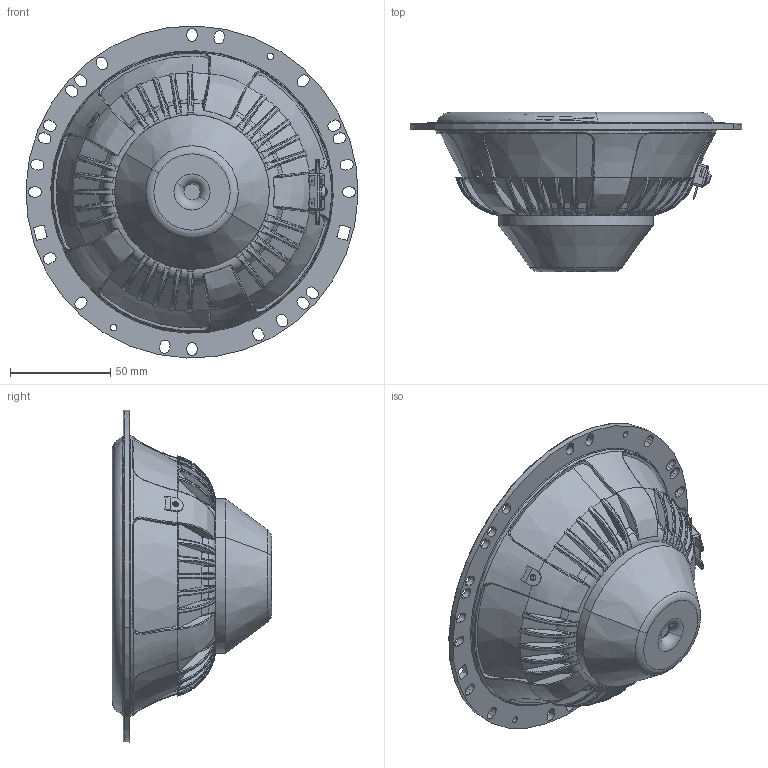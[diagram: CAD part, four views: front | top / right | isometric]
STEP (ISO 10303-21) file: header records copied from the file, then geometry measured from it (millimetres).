
FILE_DESCRIPTION (( 'STEP AP214' ), '1' );
FILE_NAME ('16W-4531G06.STEP', '2020-06-17T13:11:14', ( '' ), ( '' ), 'SwSTEP 2.0', 'SolidWorks 2019', '' );
FILE_SCHEMA (( 'AUTOMOTIVE_DESIGN' ));
Length unit declared in the file: millimetre
Products named in the file (1): 16W-4531G06
Bounding box: 165.4 x 79.3 x 165.4 mm (x, y, z)
Volume: 544724.1 mm3; surface area: 74577.2 mm2
Topology: 1 solids, 17 shells, 1443 faces, 3776 edges, 2316 vertices
Faces by surface type: bspline 664, plane 331, cylinder 208, cone 125, torus 99, sphere 16
Entity records: 80092 total; most frequent: CARTESIAN_POINT 36101, ORIENTED_EDGE 7416, DIRECTION 4388, EDGE_CURVE 3708, VERTEX_POINT 2312, AXIS2_PLACEMENT_3D 1819, B_SPLINE_CURVE_WITH_KNOTS 1743, EDGE_LOOP 1518
